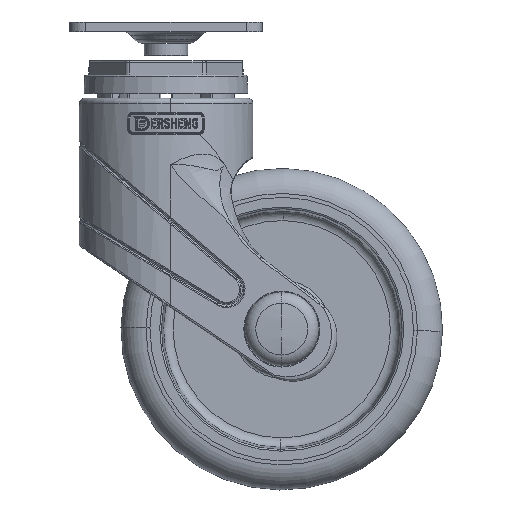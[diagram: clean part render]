
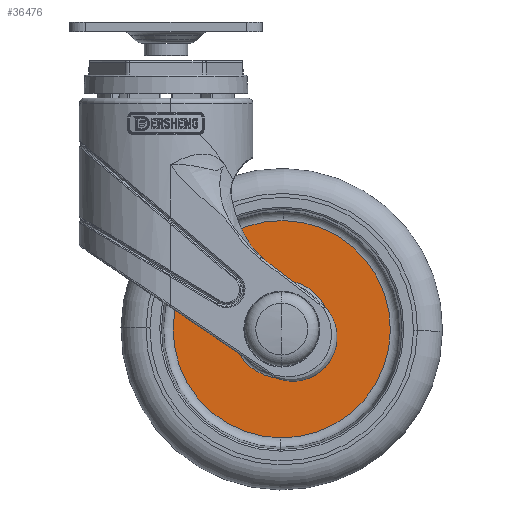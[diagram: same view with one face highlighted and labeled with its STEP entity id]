
A CAD part, top view. The second image highlights one B-rep face of the part: STEP entity #36476.
In plain terms, the highlighted planar face has unit normal (0, 0, 1).
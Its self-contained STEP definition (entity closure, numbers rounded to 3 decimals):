
#36125=CARTESIAN_POINT('',(63.,17.855,-31.177));
#36126=DIRECTION('',(0.,0.,-1.));
#36127=DIRECTION('',(-0.012,-1.,0.));
#36128=AXIS2_PLACEMENT_3D('',#36125,#36126,#36127);
#36130=CARTESIAN_POINT('',(63.,17.855,-31.177));
#36131=DIRECTION('',(0.,0.,-1.));
#36132=DIRECTION('',(0.012,1.,0.));
#36133=AXIS2_PLACEMENT_3D('',#36130,#36131,#36132);
#36135=CARTESIAN_POINT('',(63.,17.855,-31.177));
#36136=DIRECTION('',(0.,0.,-1.));
#36137=DIRECTION('',(-0.012,-1.,0.));
#36138=AXIS2_PLACEMENT_3D('',#36135,#36136,#36137);
#36140=CARTESIAN_POINT('',(63.,17.855,-31.177));
#36141=DIRECTION('',(0.,0.,-1.));
#36142=DIRECTION('',(0.012,1.,0.));
#36143=AXIS2_PLACEMENT_3D('',#36140,#36141,#36142);
#36379=CARTESIAN_POINT('',(62.582,-15.942,
-31.177));
#36380=CARTESIAN_POINT('',(63.418,51.651,
-31.177));
#36381=VERTEX_POINT('',#36379);
#36382=VERTEX_POINT('',#36380);
#36399=CARTESIAN_POINT('',(62.811,2.615,
-31.177));
#36400=CARTESIAN_POINT('',(63.189,33.094,
-31.177));
#36401=VERTEX_POINT('',#36399);
#36402=VERTEX_POINT('',#36400);
#36459=CARTESIAN_POINT('',(63.,17.855,-31.177));
#36460=DIRECTION('',(0.,0.,-1.));
#36461=DIRECTION('',(-0.012,-1.,0.));
#36462=AXIS2_PLACEMENT_3D('',#36459,#36460,#36461);
#36463=PLANE('',#36462);
#36465=ORIENTED_EDGE('',*,*,#36464,.T.);
#36467=ORIENTED_EDGE('',*,*,#36466,.T.);
#36468=EDGE_LOOP('',(#36465,#36467));
#36469=FACE_OUTER_BOUND('',#36468,.F.);
#36471=ORIENTED_EDGE('',*,*,#36470,.F.);
#36473=ORIENTED_EDGE('',*,*,#36472,.F.);
#36474=EDGE_LOOP('',(#36471,#36473));
#36475=FACE_BOUND('',#36474,.F.);
#36129=CIRCLE('',#36128,33.799);
#36134=CIRCLE('',#36133,33.799);
#36139=CIRCLE('',#36138,15.24);
#36144=CIRCLE('',#36143,15.24);
#36464=EDGE_CURVE('',#36381,#36382,#36129,.T.);
#36466=EDGE_CURVE('',#36382,#36381,#36134,.T.);
#36470=EDGE_CURVE('',#36401,#36402,#36139,.T.);
#36472=EDGE_CURVE('',#36402,#36401,#36144,.T.);
#36476=ADVANCED_FACE('',(#36469,#36475),#36463,.F.);
